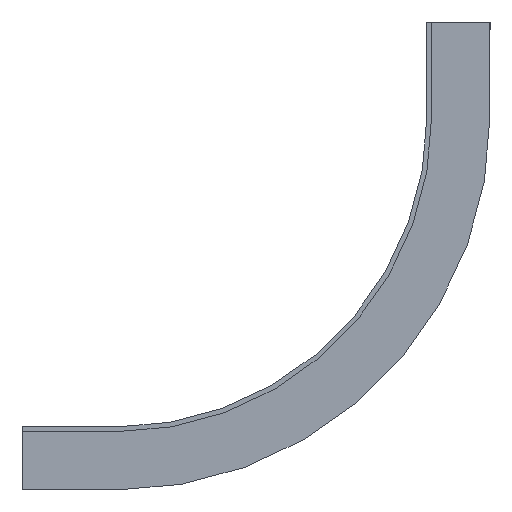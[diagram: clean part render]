
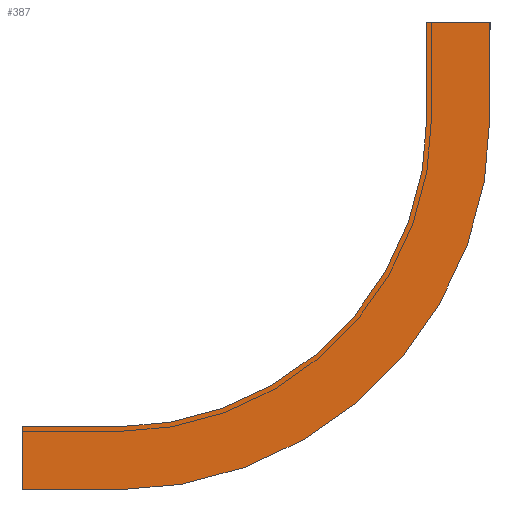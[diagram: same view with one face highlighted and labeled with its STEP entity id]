
A CAD part, left-side view. The second image highlights one B-rep face of the part: STEP entity #387.
In plain terms, the highlighted planar face has unit normal (-1, 0, 0).
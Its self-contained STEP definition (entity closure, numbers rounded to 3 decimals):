
#22 = DIRECTION ( 'NONE',  ( 0., 0., -1. ) ) ;
#33 = CARTESIAN_POINT ( 'NONE',  ( -303.5, 98.5, -148.5 ) ) ;
#34 = DIRECTION ( 'NONE',  ( 0., 0., 1. ) ) ;
#39 = LINE ( 'NONE', #175, #682 ) ;
#46 = DIRECTION ( 'NONE',  ( 0., 0., 1. ) ) ;
#47 = CARTESIAN_POINT ( 'NONE',  ( -303.5, 98.5, -128.5 ) ) ;
#60 = CARTESIAN_POINT ( 'NONE',  ( -303.5, 128.5, -148.5 ) ) ;
#62 = AXIS2_PLACEMENT_3D ( 'NONE', #665, #202, #401 ) ;
#71 = DIRECTION ( 'NONE',  ( -1., 0., 0. ) ) ;
#94 = LINE ( 'NONE', #629, #377 ) ;
#128 = VERTEX_POINT ( 'NONE', #773 ) ;
#134 = ORIENTED_EDGE ( 'NONE', *, *, #431, .F. ) ;
#142 = DIRECTION ( 'NONE',  ( 0., 1., 0. ) ) ;
#146 = VERTEX_POINT ( 'NONE', #33 ) ;
#175 = CARTESIAN_POINT ( 'NONE',  ( -303.5, 98.5, -128.5 ) ) ;
#198 = VERTEX_POINT ( 'NONE', #264 ) ;
#200 = VECTOR ( 'NONE', #46, 1000. ) ;
#202 = DIRECTION ( 'NONE',  ( 1., 0., 0. ) ) ;
#208 = ORIENTED_EDGE ( 'NONE', *, *, #427, .F. ) ;
#209 = EDGE_CURVE ( 'NONE', #857, #198, #654, .T. ) ;
#258 = VERTEX_POINT ( 'NONE', #382 ) ;
#259 = ORIENTED_EDGE ( 'NONE', *, *, #209, .F. ) ;
#262 = FACE_OUTER_BOUND ( 'NONE', #675, .T. ) ;
#264 = CARTESIAN_POINT ( 'NONE',  ( -303.5, 0., 0. ) ) ;
#268 = DIRECTION ( 'NONE',  ( 0., 0., -1. ) ) ;
#303 = EDGE_CURVE ( 'NONE', #128, #333, #39, .T. ) ;
#308 = VECTOR ( 'NONE', #334, 1000. ) ;
#326 = PLANE ( 'NONE',  #62 ) ;
#329 = ORIENTED_EDGE ( 'NONE', *, *, #489, .F. ) ;
#333 = VERTEX_POINT ( 'NONE', #47 ) ;
#334 = DIRECTION ( 'NONE',  ( 0., -1., 0. ) ) ;
#350 = VECTOR ( 'NONE', #34, 1000. ) ;
#365 = LINE ( 'NONE', #631, #350 ) ;
#368 = AXIS2_PLACEMENT_3D ( 'NONE', #373, #644, #767 ) ;
#373 = CARTESIAN_POINT ( 'NONE',  ( -303.5, 98.5, -30. ) ) ;
#377 = VECTOR ( 'NONE', #142, 1000. ) ;
#382 = CARTESIAN_POINT ( 'NONE',  ( -303.5, -20., -30. ) ) ;
#387 = ADVANCED_FACE ( 'NONE', ( #262 ), #326, .F. ) ;
#394 = ORIENTED_EDGE ( 'NONE', *, *, #791, .F. ) ;
#401 = DIRECTION ( 'NONE',  ( 0., 0., -1. ) ) ;
#409 = ORIENTED_EDGE ( 'NONE', *, *, #500, .F. ) ;
#410 = CARTESIAN_POINT ( 'NONE',  ( -303.5, 98.5, -30. ) ) ;
#427 = EDGE_CURVE ( 'NONE', #198, #606, #792, .T. ) ;
#431 = EDGE_CURVE ( 'NONE', #606, #258, #734, .T. ) ;
#459 = CARTESIAN_POINT ( 'NONE',  ( -303.5, 0., 0. ) ) ;
#472 = VERTEX_POINT ( 'NONE', #60 ) ;
#487 = ORIENTED_EDGE ( 'NONE', *, *, #666, .F. ) ;
#489 = EDGE_CURVE ( 'NONE', #146, #472, #94, .T. ) ;
#500 = EDGE_CURVE ( 'NONE', #333, #857, #674, .T. ) ;
#538 = CARTESIAN_POINT ( 'NONE',  ( -303.5, -20., -30. ) ) ;
#542 = CARTESIAN_POINT ( 'NONE',  ( -303.5, -20., 0. ) ) ;
#551 = CARTESIAN_POINT ( 'NONE',  ( -303.5, -20., 0. ) ) ;
#596 = VECTOR ( 'NONE', #268, 1000. ) ;
#600 = CARTESIAN_POINT ( 'NONE',  ( -303.5, 0., -30. ) ) ;
#606 = VERTEX_POINT ( 'NONE', #551 ) ;
#622 = ORIENTED_EDGE ( 'NONE', *, *, #303, .F. ) ;
#629 = CARTESIAN_POINT ( 'NONE',  ( -303.5, 128.5, -148.5 ) ) ;
#631 = CARTESIAN_POINT ( 'NONE',  ( -303.5, 128.5, -128.5 ) ) ;
#644 = DIRECTION ( 'NONE',  ( 1., 0., 0. ) ) ;
#654 = LINE ( 'NONE', #459, #200 ) ;
#665 = CARTESIAN_POINT ( 'NONE',  ( -303.5, 98.5, -30. ) ) ;
#666 = EDGE_CURVE ( 'NONE', #472, #128, #365, .T. ) ;
#674 = CIRCLE ( 'NONE', #830, 98.5 ) ;
#675 = EDGE_LOOP ( 'NONE', ( #208, #259, #409, #622, #487, #329, #394, #134 ) ) ;
#678 = CIRCLE ( 'NONE', #368, 118.5 ) ;
#682 = VECTOR ( 'NONE', #716, 1000. ) ;
#716 = DIRECTION ( 'NONE',  ( 0., -1., 0. ) ) ;
#734 = LINE ( 'NONE', #538, #596 ) ;
#767 = DIRECTION ( 'NONE',  ( 0., 0., 1. ) ) ;
#773 = CARTESIAN_POINT ( 'NONE',  ( -303.5, 128.5, -128.5 ) ) ;
#791 = EDGE_CURVE ( 'NONE', #258, #146, #678, .T. ) ;
#792 = LINE ( 'NONE', #542, #308 ) ;
#830 = AXIS2_PLACEMENT_3D ( 'NONE', #410, #71, #22 ) ;
#857 = VERTEX_POINT ( 'NONE', #600 ) ;
